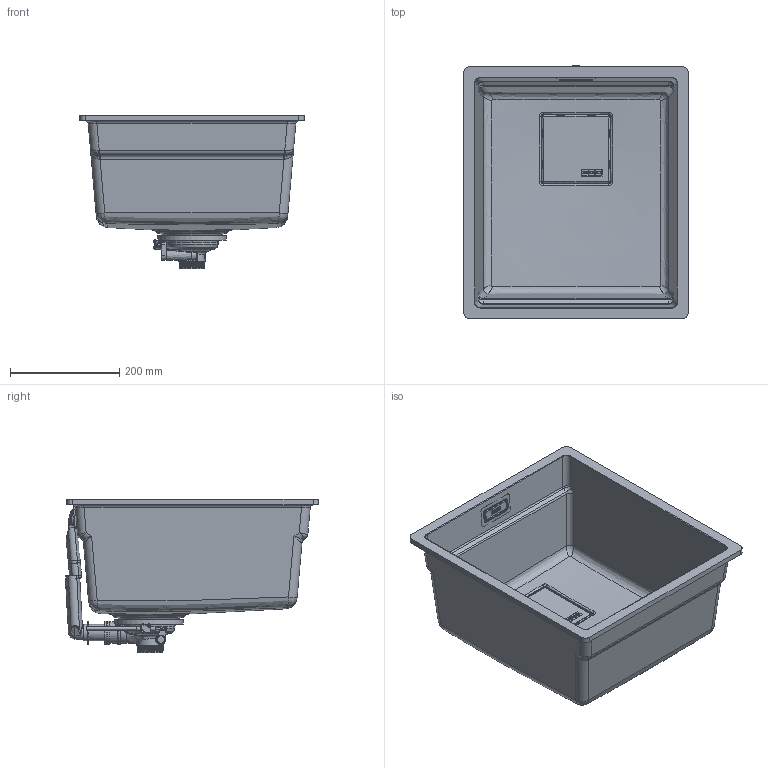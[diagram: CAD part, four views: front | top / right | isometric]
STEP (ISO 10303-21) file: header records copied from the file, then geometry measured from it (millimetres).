
FILE_DESCRIPTION(/* description */ (''),/* implementation_level */ '2;1');
FILE_NAME(/* name */ '3D001_Sinks_Kubus-2_KNG-110-37',/* time_stamp */ '2024-11-18T08:59:00+01:00',/* author */ (''),/* organization */ (''),/* preprocessor_version */ 'ST-DEVELOPER v19.2',/* originating_system */ 'Rhino 8.9',/* authorisation */ '');
FILE_SCHEMA (('CONFIG_CONTROL_DESIGN'));
Products named in the file (4): Document; Blocco 14; Blocco 13; LOGO_SOLOBORDO_COPRISCARICO
Bounding box: 410 x 462.65 x 280 mm (x, y, z)
Volume: 3414958 mm3; surface area: 1030929.7 mm2
Topology: 15 solids, 23 shells, 2606 faces, 7145 edges, 4661 vertices
Faces by surface type: plane 1658, cylinder 506, bspline 442
Full cylindrical faces by diameter (mm): 5 x3, 6 x1, 7.5 x3, 8 x1, 14 x2, 23.8 x1, 24 x1, 30 x3, 36 x1, 39 x1, 42 x3, 45 x1, 48 x1, 83.403 x1, 84 x1, 90 x1, 126 x1
Entity records: 111371 total; most frequent: CARTESIAN_POINT 56262, ORIENTED_EDGE 14081, EDGE_CURVE 7125, DIRECTION 5888, B_SPLINE_CURVE_WITH_KNOTS 4795, VERTEX_POINT 4661, AXIS2_PLACEMENT_3D 4026, EDGE_LOOP 2750
